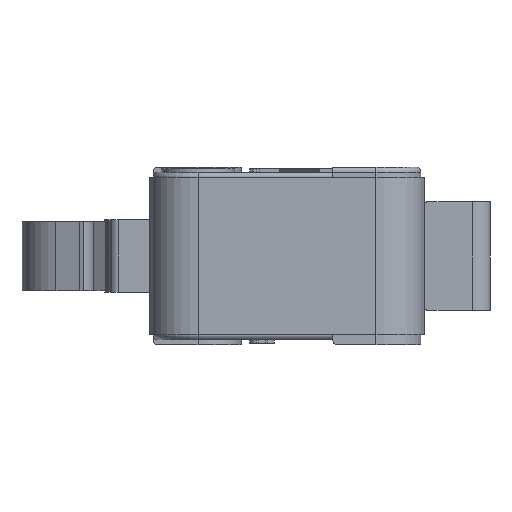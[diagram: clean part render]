
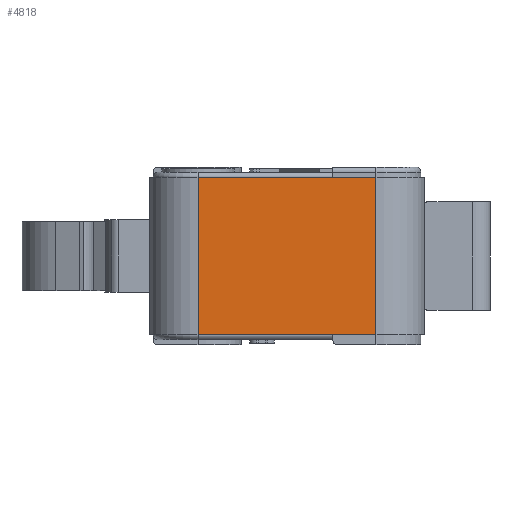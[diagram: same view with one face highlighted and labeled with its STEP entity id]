
A CAD part, left-side view. The second image highlights one B-rep face of the part: STEP entity #4818.
In plain terms, the highlighted planar face has unit normal (-1, 0, 0).
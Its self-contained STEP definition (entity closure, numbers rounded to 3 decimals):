
#4751=CARTESIAN_POINT('',(-13.9,5.15,-4.55));
#4752=VERTEX_POINT('',#4751);
#4753=CARTESIAN_POINT('',(-13.9,5.15,4.55));
#4754=VERTEX_POINT('',#4753);
#4755=CARTESIAN_POINT('',(-13.9,5.15,-4.55));
#4756=DIRECTION('',(0.0,0.0,1.0));
#4757=VECTOR('',#4756,9.1);
#4758=LINE('',#4755,#4757);
#4759=EDGE_CURVE('',#4752,#4754,#4758,.T.);
#4788=CARTESIAN_POINT('',(-13.9,-5.15,-4.55));
#4789=DIRECTION('',(-1.0,0.0,0.0));
#4790=DIRECTION('',(0.0,0.0,1.0));
#4791=AXIS2_PLACEMENT_3D('',#4788,#4789,#4790);
#4792=PLANE('',#4791);
#4793=CARTESIAN_POINT('',(-13.9,-5.15,4.55));
#4794=VERTEX_POINT('',#4793);
#4795=CARTESIAN_POINT('',(-13.9,-5.15,4.55));
#4796=DIRECTION('',(0.0,1.0,0.0));
#4797=VECTOR('',#4796,10.3);
#4798=LINE('',#4795,#4797);
#4799=EDGE_CURVE('',#4794,#4754,#4798,.T.);
#4800=ORIENTED_EDGE('',*,*,#4799,.T.);
#4801=ORIENTED_EDGE('',*,*,#4759,.F.);
#4802=CARTESIAN_POINT('',(-13.9,-5.15,-4.55));
#4803=VERTEX_POINT('',#4802);
#4804=CARTESIAN_POINT('',(-13.9,5.15,-4.55));
#4805=DIRECTION('',(0.0,-1.0,0.0));
#4806=VECTOR('',#4805,10.3);
#4807=LINE('',#4804,#4806);
#4808=EDGE_CURVE('',#4752,#4803,#4807,.T.);
#4809=ORIENTED_EDGE('',*,*,#4808,.T.);
#4810=CARTESIAN_POINT('',(-13.9,-5.15,-4.55));
#4811=DIRECTION('',(0.0,0.0,1.0));
#4812=VECTOR('',#4811,9.1);
#4813=LINE('',#4810,#4812);
#4814=EDGE_CURVE('',#4803,#4794,#4813,.T.);
#4815=ORIENTED_EDGE('',*,*,#4814,.T.);
#4816=EDGE_LOOP('',(#4800,#4801,#4809,#4815));
#4817=FACE_OUTER_BOUND('',#4816,.T.);
#4818=ADVANCED_FACE('',(#4817),#4792,.T.);
